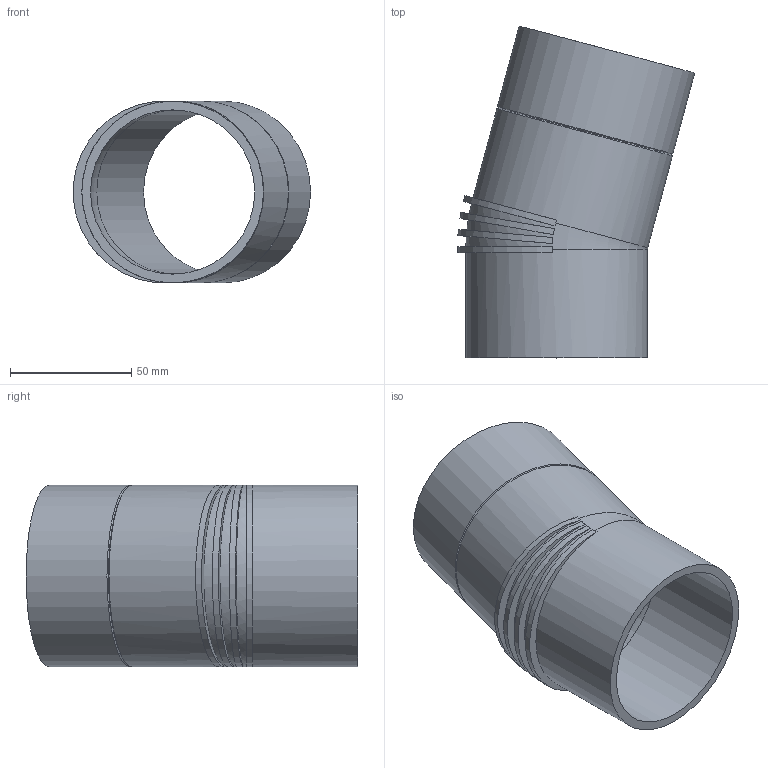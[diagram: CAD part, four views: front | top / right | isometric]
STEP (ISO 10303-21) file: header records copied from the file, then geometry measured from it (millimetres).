
FILE_DESCRIPTION(/* description */ (''),/* implementation_level */ '2;1');
FILE_NAME(/* name */ 'Z:\Geberit\Export\NewStep\Bogen_Ipart\stp\307150.stp',/* time_stamp */ '2014-04-03T16:41:39+02:00',/* author */ ('Marco'),/* organization */ (''),/* preprocessor_version */ 'ST-DEVELOPER v15.2',/* originating_system */ 'Autodesk Inventor 2014',/* authorisation */ '');
FILE_SCHEMA (('AUTOMOTIVE_DESIGN { 1 0 10303 214 3 1 1 }'));
Length unit declared in the file: millimetre
Products named in the file (1): 307150
Bounding box: 97.89 x 136.98 x 75 mm (x, y, z)
Volume: 107576.3 mm3; surface area: 62344.7 mm2
Topology: 1 solids, 1 shells, 23 faces, 60 edges, 39 vertices
Faces by surface type: plane 10, cylinder 9, cone 2, torus 2
Full cylindrical faces by diameter (mm): 67.8 x2, 75 x3
Entity records: 864 total; most frequent: CARTESIAN_POINT 340, DIRECTION 94, ORIENTED_EDGE 90, EDGE_CURVE 45, AXIS2_PLACEMENT_3D 45, EDGE_LOOP 36, VERTEX_POINT 35, STYLED_ITEM 24
